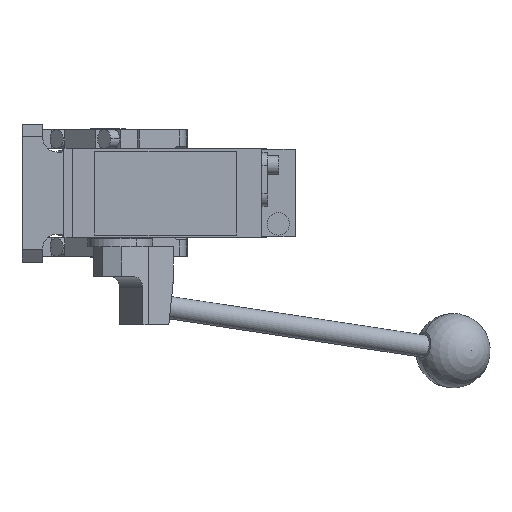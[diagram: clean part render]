
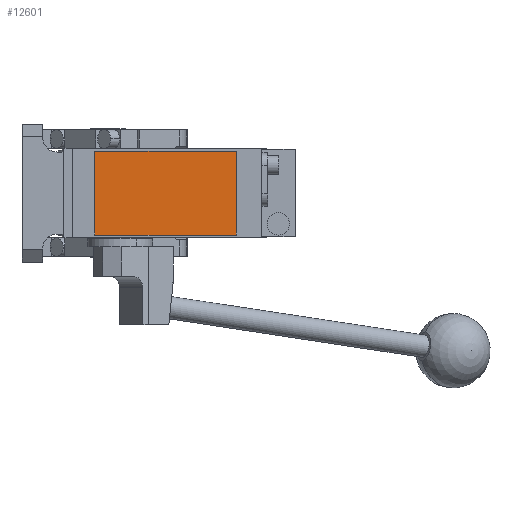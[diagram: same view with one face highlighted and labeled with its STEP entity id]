
A CAD part, front view. The second image highlights one B-rep face of the part: STEP entity #12601.
In plain terms, the highlighted planar face has unit normal (0, -1, 0).
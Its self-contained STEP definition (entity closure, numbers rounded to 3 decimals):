
#975 = VECTOR ( 'NONE', #983, 1000. ) ;
#983 = DIRECTION ( 'NONE',  ( 0., 0., -1. ) ) ;
#1041 = DIRECTION ( 'NONE',  ( 0., 0., 1. ) ) ;
#2522 = CARTESIAN_POINT ( 'NONE',  ( 69., -280.5, 22.5 ) ) ;
#2595 = CARTESIAN_POINT ( 'NONE',  ( -7., -280.5, 22.5 ) ) ;
#3087 = CARTESIAN_POINT ( 'NONE',  ( 0., -280.5, 0. ) ) ;
#3314 = CARTESIAN_POINT ( 'NONE',  ( 69., -280.5, 22.5 ) ) ;
#3392 = VECTOR ( 'NONE', #4308, 1000. ) ;
#3436 = CARTESIAN_POINT ( 'NONE',  ( -7., -280.5, -22.5 ) ) ;
#3669 = LINE ( 'NONE', #2522, #13732 ) ;
#4308 = DIRECTION ( 'NONE',  ( -1., 0., 0. ) ) ;
#4346 = ORIENTED_EDGE ( 'NONE', *, *, #8132, .T. ) ;
#4381 = EDGE_CURVE ( 'NONE', #10514, #10269, #10545, .T. ) ;
#4552 = FACE_OUTER_BOUND ( 'NONE', #9399, .T. ) ;
#6420 = ORIENTED_EDGE ( 'NONE', *, *, #11578, .T. ) ;
#6752 = AXIS2_PLACEMENT_3D ( 'NONE', #3087, #14440, #6803 ) ;
#6803 = DIRECTION ( 'NONE',  ( 0., 0., -1. ) ) ;
#7193 = LINE ( 'NONE', #15895, #9037 ) ;
#7598 = ORIENTED_EDGE ( 'NONE', *, *, #8529, .T. ) ;
#8132 = EDGE_CURVE ( 'NONE', #10269, #14119, #9359, .T. ) ;
#8529 = EDGE_CURVE ( 'NONE', #14119, #15739, #7193, .T. ) ;
#9037 = VECTOR ( 'NONE', #9705, 1000. ) ;
#9359 = LINE ( 'NONE', #14324, #975 ) ;
#9399 = EDGE_LOOP ( 'NONE', ( #4346, #7598, #6420, #12627 ) ) ;
#9474 = PLANE ( 'NONE',  #6752 ) ;
#9705 = DIRECTION ( 'NONE',  ( 1., 0., 0. ) ) ;
#10269 = VERTEX_POINT ( 'NONE', #2595 ) ;
#10514 = VERTEX_POINT ( 'NONE', #3314 ) ;
#10545 = LINE ( 'NONE', #11843, #3392 ) ;
#11578 = EDGE_CURVE ( 'NONE', #15739, #10514, #3669, .T. ) ;
#11843 = CARTESIAN_POINT ( 'NONE',  ( -7., -280.5, 22.5 ) ) ;
#12601 = ADVANCED_FACE ( 'NONE', ( #4552 ), #9474, .T. ) ;
#12627 = ORIENTED_EDGE ( 'NONE', *, *, #4381, .T. ) ;
#13732 = VECTOR ( 'NONE', #1041, 1000. ) ;
#14119 = VERTEX_POINT ( 'NONE', #3436 ) ;
#14324 = CARTESIAN_POINT ( 'NONE',  ( -7., -280.5, 22.5 ) ) ;
#14440 = DIRECTION ( 'NONE',  ( 0., -1., 0. ) ) ;
#15739 = VERTEX_POINT ( 'NONE', #16086 ) ;
#15895 = CARTESIAN_POINT ( 'NONE',  ( -7., -280.5, -22.5 ) ) ;
#16086 = CARTESIAN_POINT ( 'NONE',  ( 69., -280.5, -22.5 ) ) ;
